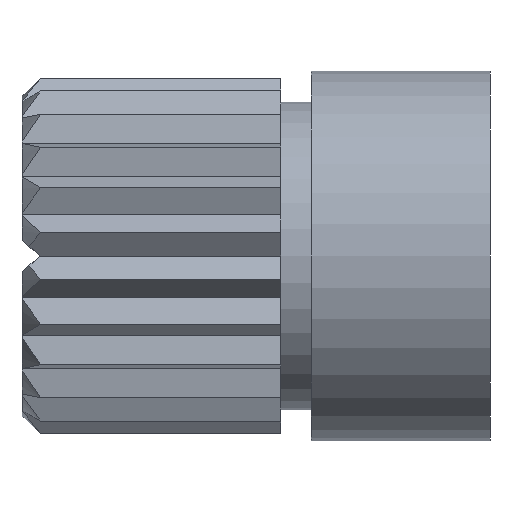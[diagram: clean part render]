
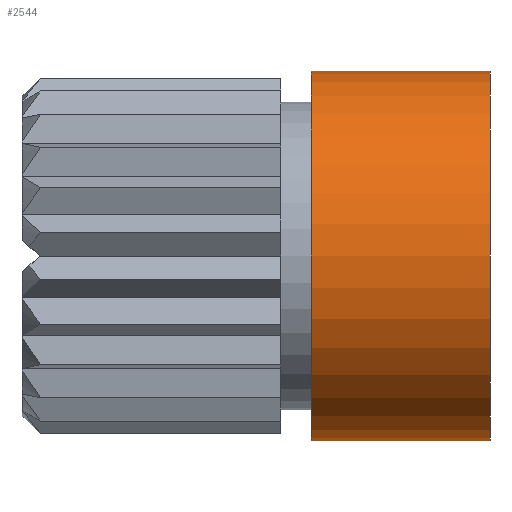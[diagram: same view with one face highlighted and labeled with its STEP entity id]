
A CAD part, front view. The second image highlights one B-rep face of the part: STEP entity #2544.
In plain terms, the highlighted cylindrical face has radius 3 mm (diameter 6 mm), a full revolution.
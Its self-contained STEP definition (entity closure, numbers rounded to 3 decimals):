
#2467 = PLANE('',#2468);
#2468 = AXIS2_PLACEMENT_3D('',#2469,#2470,#2471);
#2469 = CARTESIAN_POINT('',(50.1,28.,244.5));
#2470 = DIRECTION('',(-1.,0.,0.));
#2471 = DIRECTION('',(0.,0.,1.));
#2509 = EDGE_CURVE('',#2510,#2510,#2512,.T.);
#2510 = VERTEX_POINT('',#2511);
#2511 = CARTESIAN_POINT('',(50.1,31.,244.5));
#2512 = SURFACE_CURVE('',#2513,(#2518,#2529),.PCURVE_S1.);
#2513 = CIRCLE('',#2514,3.);
#2514 = AXIS2_PLACEMENT_3D('',#2515,#2516,#2517);
#2515 = CARTESIAN_POINT('',(50.1,28.,244.5));
#2516 = DIRECTION('',(1.,0.,0.));
#2517 = DIRECTION('',(0.,1.,0.));
#2518 = PCURVE('',#2467,#2519);
#2519 = DEFINITIONAL_REPRESENTATION('',(#2520),#2528);
#2520 = ( BOUNDED_CURVE() B_SPLINE_CURVE(2,(#2521,#2522,#2523,#2524,
#2525,#2526,#2527),.UNSPECIFIED.,.T.,.F.) B_SPLINE_CURVE_WITH_KNOTS((1,2
    ,2,2,2,1),(-2.094,0.,2.094,4.189,
6.283,8.378),.UNSPECIFIED.) CURVE() 
GEOMETRIC_REPRESENTATION_ITEM() RATIONAL_B_SPLINE_CURVE((1.,0.5,1.,0.5,
1.,0.5,1.)) REPRESENTATION_ITEM('') );
#2521 = CARTESIAN_POINT('',(0.,3.));
#2522 = CARTESIAN_POINT('',(5.196,3.));
#2523 = CARTESIAN_POINT('',(2.598,-1.5));
#2524 = CARTESIAN_POINT('',(0.,-6.));
#2525 = CARTESIAN_POINT('',(-2.598,-1.5));
#2526 = CARTESIAN_POINT('',(-5.196,3.));
#2527 = CARTESIAN_POINT('',(0.,3.));
#2528 = ( GEOMETRIC_REPRESENTATION_CONTEXT(2) 
PARAMETRIC_REPRESENTATION_CONTEXT() REPRESENTATION_CONTEXT('2D SPACE',''
  ) );
#2529 = PCURVE('',#2530,#2535);
#2530 = CYLINDRICAL_SURFACE('',#2531,3.);
#2531 = AXIS2_PLACEMENT_3D('',#2532,#2533,#2534);
#2532 = CARTESIAN_POINT('',(42.01,28.,244.5));
#2533 = DIRECTION('',(1.,0.,0.));
#2534 = DIRECTION('',(0.,-1.,0.));
#2535 = DEFINITIONAL_REPRESENTATION('',(#2536),#2540);
#2536 = LINE('',#2537,#2538);
#2537 = CARTESIAN_POINT('',(3.142,8.09));
#2538 = VECTOR('',#2539,1.);
#2539 = DIRECTION('',(1.,0.));
#2540 = ( GEOMETRIC_REPRESENTATION_CONTEXT(2) 
PARAMETRIC_REPRESENTATION_CONTEXT() REPRESENTATION_CONTEXT('2D SPACE',''
  ) );
#2544 = ADVANCED_FACE('',(#2545),#2530,.T.);
#2545 = FACE_BOUND('',#2546,.T.);
#2546 = EDGE_LOOP('',(#2547,#2548,#2570,#2597));
#2547 = ORIENTED_EDGE('',*,*,#2509,.F.);
#2548 = ORIENTED_EDGE('',*,*,#2549,.F.);
#2549 = EDGE_CURVE('',#2550,#2510,#2552,.T.);
#2550 = VERTEX_POINT('',#2551);
#2551 = CARTESIAN_POINT('',(47.2,31.,244.5));
#2552 = SEAM_CURVE('',#2553,(#2556,#2563),.PCURVE_S1.);
#2553 = B_SPLINE_CURVE_WITH_KNOTS('',1,(#2554,#2555),.UNSPECIFIED.,.F.,
  .F.,(2,2),(5.19,8.09),.PIECEWISE_BEZIER_KNOTS.);
#2554 = CARTESIAN_POINT('',(47.2,31.,244.5));
#2555 = CARTESIAN_POINT('',(50.1,31.,244.5));
#2556 = PCURVE('',#2530,#2557);
#2557 = DEFINITIONAL_REPRESENTATION('',(#2558),#2562);
#2558 = LINE('',#2559,#2560);
#2559 = CARTESIAN_POINT('',(3.142,0.));
#2560 = VECTOR('',#2561,1.);
#2561 = DIRECTION('',(0.,1.));
#2562 = ( GEOMETRIC_REPRESENTATION_CONTEXT(2) 
PARAMETRIC_REPRESENTATION_CONTEXT() REPRESENTATION_CONTEXT('2D SPACE',''
  ) );
#2563 = PCURVE('',#2530,#2564);
#2564 = DEFINITIONAL_REPRESENTATION('',(#2565),#2569);
#2565 = LINE('',#2566,#2567);
#2566 = CARTESIAN_POINT('',(9.425,0.));
#2567 = VECTOR('',#2568,1.);
#2568 = DIRECTION('',(0.,1.));
#2569 = ( GEOMETRIC_REPRESENTATION_CONTEXT(2) 
PARAMETRIC_REPRESENTATION_CONTEXT() REPRESENTATION_CONTEXT('2D SPACE',''
  ) );
#2570 = ORIENTED_EDGE('',*,*,#2571,.T.);
#2571 = EDGE_CURVE('',#2550,#2550,#2572,.T.);
#2572 = SURFACE_CURVE('',#2573,(#2578,#2585),.PCURVE_S1.);
#2573 = CIRCLE('',#2574,3.);
#2574 = AXIS2_PLACEMENT_3D('',#2575,#2576,#2577);
#2575 = CARTESIAN_POINT('',(47.2,28.,244.5));
#2576 = DIRECTION('',(1.,0.,0.));
#2577 = DIRECTION('',(0.,1.,0.));
#2578 = PCURVE('',#2530,#2579);
#2579 = DEFINITIONAL_REPRESENTATION('',(#2580),#2584);
#2580 = LINE('',#2581,#2582);
#2581 = CARTESIAN_POINT('',(3.142,5.19));
#2582 = VECTOR('',#2583,1.);
#2583 = DIRECTION('',(1.,0.));
#2584 = ( GEOMETRIC_REPRESENTATION_CONTEXT(2) 
PARAMETRIC_REPRESENTATION_CONTEXT() REPRESENTATION_CONTEXT('2D SPACE',''
  ) );
#2585 = PCURVE('',#2586,#2591);
#2586 = PLANE('',#2587);
#2587 = AXIS2_PLACEMENT_3D('',#2588,#2589,#2590);
#2588 = CARTESIAN_POINT('',(47.2,28.,244.5));
#2589 = DIRECTION('',(1.,0.,0.));
#2590 = DIRECTION('',(0.,-1.,0.));
#2591 = DEFINITIONAL_REPRESENTATION('',(#2592),#2596);
#2592 = CIRCLE('',#2593,3.);
#2593 = AXIS2_PLACEMENT_2D('',#2594,#2595);
#2594 = CARTESIAN_POINT('',(0.,0.));
#2595 = DIRECTION('',(-1.,0.));
#2596 = ( GEOMETRIC_REPRESENTATION_CONTEXT(2) 
PARAMETRIC_REPRESENTATION_CONTEXT() REPRESENTATION_CONTEXT('2D SPACE',''
  ) );
#2597 = ORIENTED_EDGE('',*,*,#2549,.T.);
